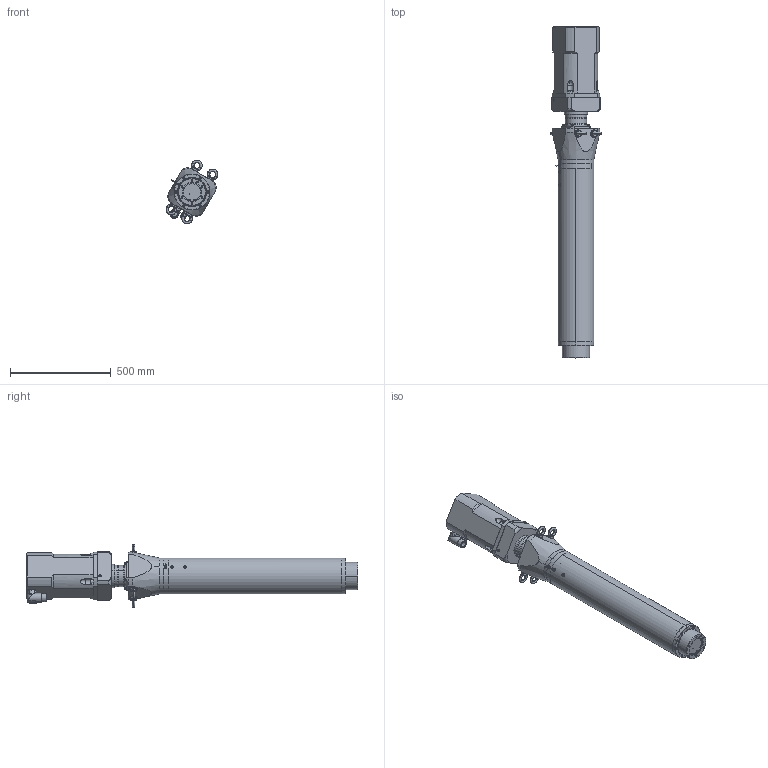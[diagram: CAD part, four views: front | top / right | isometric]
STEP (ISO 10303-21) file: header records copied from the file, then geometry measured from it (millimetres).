
FILE_DESCRIPTION (( 'STEP AP214' ), '1' );
FILE_NAME ('RLWIK060D-055-025HG0.STEP', '2023-04-06T05:29:12', ( '' ), ( '' ), 'SwSTEP 2.0', 'SolidWorks 2021', '' );
FILE_SCHEMA (( 'AUTOMOTIVE_DESIGN' ));
Length unit declared in the file: millimetre
Products named in the file (1): RLWIK060D-055-025HG0
Bounding box: 257.44 x 1649 x 317.1 mm (x, y, z)
Volume: 34475218.5 mm3; surface area: 2549472.7 mm2
Topology: 34 solids, 34 shells, 1193 faces, 2804 edges, 1656 vertices
Faces by surface type: cylinder 460, plane 347, cone 218, torus 92, bspline 74, sphere 2
Entity records: 52623 total; most frequent: CARTESIAN_POINT 12155, DIRECTION 5936, ORIENTED_EDGE 5320, EDGE_CURVE 2660, AXIS2_PLACEMENT_3D 2406, VERTEX_POINT 1656, EDGE_LOOP 1404, CIRCLE 1286
